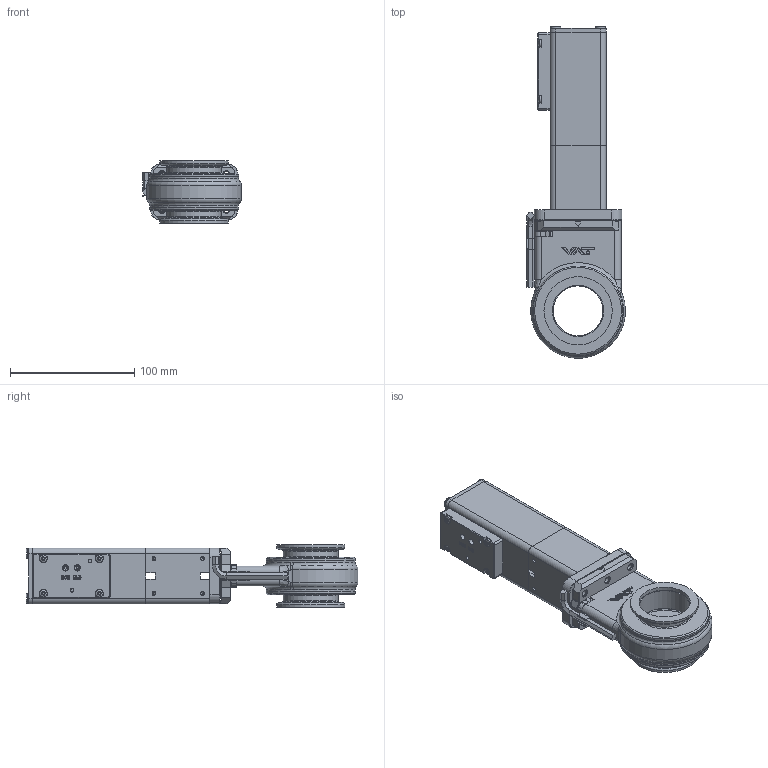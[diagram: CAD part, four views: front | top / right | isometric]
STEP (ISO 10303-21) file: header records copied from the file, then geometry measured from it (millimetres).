
FILE_DESCRIPTION( ( 'Unknown' ), '1' );
FILE_NAME( 'X:/Daten ( aktueller Bestand )/Projekte und Zeichnungen/Solid Edge/STP-Dateien/Schieberventile KF, handbetätigt,el.pneu/315614.stp', 'Unknown', ( 'Unknown' ), ( 'Unknown' ), 'PSStep 14.0', 'Unknown', ' ' );
FILE_SCHEMA( ( 'AUTOMOTIVE_DESIGN { 1 0 10303 214 1 1 1 1 }' ) );
Length unit declared in the file: millimetre
Products named in the file (17): 66271-r1.6_0; 63172-01_4; 69852-01_4; 83434-01.1_0; Assem1; 65209-01.2_4; 252080.1_0; 252066.1_0; 69968-01.1_4; 73280-01_1.1_4; 63152-01.4_4; 70613-01.2_0; 66481-01.2_0; 228772.1_4; n-6024-526_0; 94294-01.3_0
Assembly tree (29 placements, depth 3):
  Assem1
    65209-01.2_4
    252080.1_0
    252066.1_0  x4
    69968-01.1_4
    73280-01_1.1_4
    63152-01.4_4
    70613-01.2_0
    66481-01.2_0
    228772.1_4  x6
    n-6024-526_0  x4
    83434-01.1_0  x2
    94294-01.3_0
    66271-r1.6_0
      63172-01_4
      69852-01_4
      83434-01.1_0
      66271-r1.6_0
Bounding box: 79.41 x 266.84 x 50 mm (x, y, z)
Volume: 271722.5 mm3; surface area: 157511.1 mm2
Topology: 28 solids, 28 shells, 982 faces, 2451 edges, 1599 vertices
Faces by surface type: plane 562, cylinder 243, cone 52, extrusion 45, torus 40, bspline 36, sphere 4
Full cylindrical faces by diameter (mm): 2 x4, 2.5 x10, 3 x14, 3.3 x8, 3.4 x2, 4 x8, 4.15 x4, 4.2 x2, 4.65 x4, 5 x8, 5.4 x4, 5.6 x8, 5.95 x2, 6 x16, 6.2 x10, 6.95 x2, 8.1 x4, 9.85 x1, 37.2 x1, 39.7 x1, 40.1 x3, 40.15 x2, 41.3 x3, 43.1 x1, 44 x3, 54.905 x3, 66.65 x3, 67.9 x3, 68.1 x2, 71.45 x2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
Entity records: 33210 total; most frequent: CARTESIAN_POINT 6741, ORIENTED_EDGE 3892, DIRECTION 3872, EDGE_CURVE 1946, VERTEX_POINT 1352, VECTOR 1304, AXIS2_PLACEMENT_3D 1284, LINE 1259
